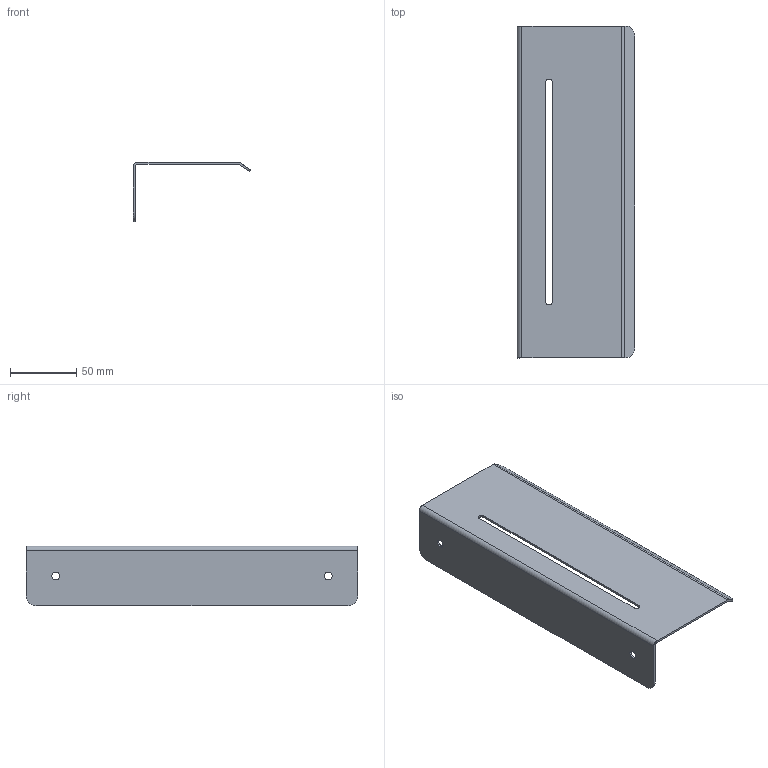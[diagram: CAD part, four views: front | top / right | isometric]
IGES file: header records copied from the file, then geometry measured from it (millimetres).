
Start section: IGES file generated by C3D Converter 1.5 translator by C3D Labs., translator version IGESOUT-5.1.
Global section: file name: D:\×åðòåæè èçäåëèé Âàííà 2023\Ïîëêè Simple Íîâûå\3D\×åðòåæè 22.07.2023\3D\S²MPLE_2_250.igs; preprocessor: 1.0; author: a.kalenyk83@gmail.com; organization: unknown; date: -17770622:112717; units: millimetre
Bounding box: 88.5 x 250 x 45 mm (x, y, z)
Volume: 48138 mm3; surface area: 65885.1 mm2
Topology: 1 solids, 1 shells, 34 faces, 80 edges, 48 vertices
Faces by surface type: bspline 20, revolution 14
